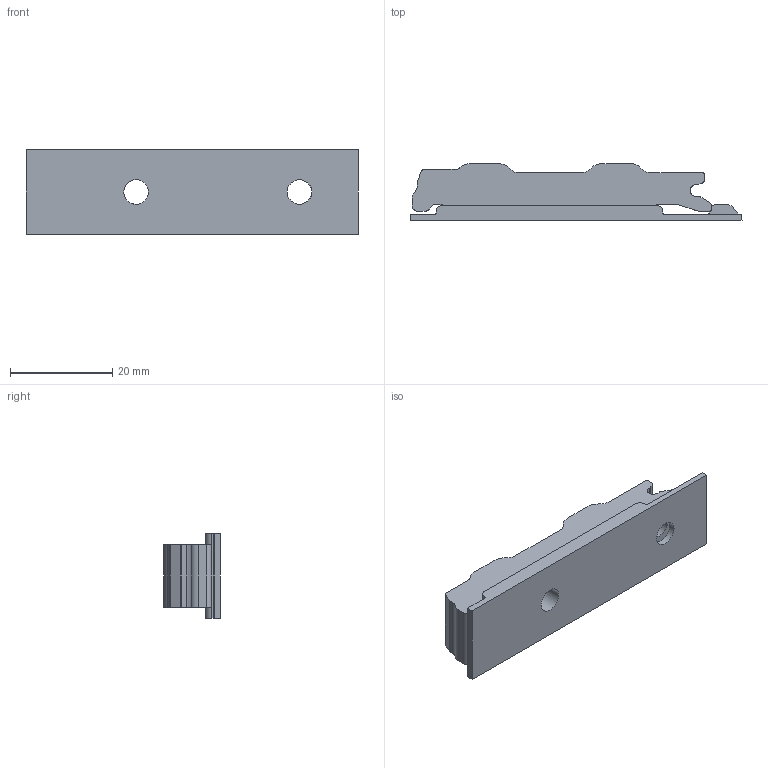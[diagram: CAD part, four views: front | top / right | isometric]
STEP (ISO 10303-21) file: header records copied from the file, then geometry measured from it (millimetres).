
FILE_DESCRIPTION (( 'STEP AP214' ), '1' );
FILE_NAME ('SQ00YQ.STEP', '2021-04-10T02:26:20', ( 'Windows 蚚誧' ), ( '' ), 'SwSTEP 2.0', 'SolidWorks 2018', '' );
FILE_SCHEMA (( 'AUTOMOTIVE_DESIGN' ));
Length unit declared in the file: millimetre
Products named in the file (1): SQ00YQ
Bounding box: 65 x 11.13 x 16.5 mm (x, y, z)
Volume: 7186.3 mm3; surface area: 4128.2 mm2
Topology: 1 solids, 1 shells, 89 faces, 274 edges, 182 vertices
Faces by surface type: plane 48, cylinder 41
Entity records: 3435 total; most frequent: CARTESIAN_POINT 640, ORIENTED_EDGE 548, DIRECTION 528, EDGE_CURVE 274, VERTEX_POINT 182, LINE 180, VECTOR 180, AXIS2_PLACEMENT_3D 174
